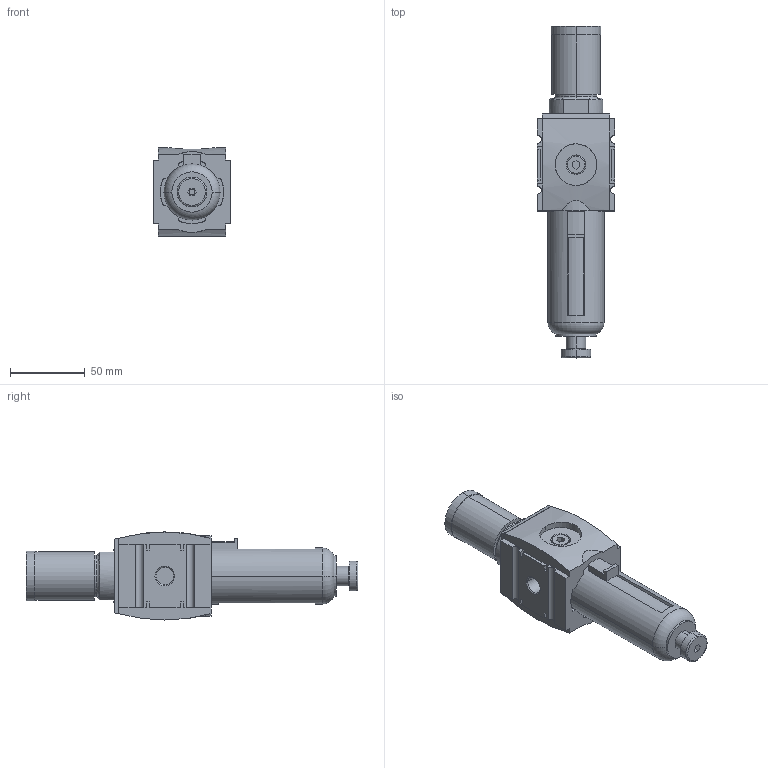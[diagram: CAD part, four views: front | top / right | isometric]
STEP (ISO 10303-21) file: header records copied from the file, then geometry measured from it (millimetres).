
FILE_DESCRIPTION((''),'2;1');
FILE_NAME('R412006236_ASM','2019-08-08T',('hug2hc'),(''),'CREO PARAMETRIC BY PTC INC, 2016260','CREO PARAMETRIC BY PTC INC, 2016260','');
FILE_SCHEMA(('CONFIG_CONTROL_DESIGN'));
Length unit declared in the file: millimetre
Products named in the file (5): R412006236; AS2_RES_FILTER_SEMI; AS2_PLUG_14; AS2_DRAIN_KNOB_PC; R412006236_ASM
Assembly tree (4 placements, depth 2):
  R412006236_ASM
    R412006236
    AS2_RES_FILTER_SEMI
    AS2_PLUG_14
    AS2_DRAIN_KNOB_PC
Bounding box: 52 x 222.5 x 59 mm (x, y, z)
Volume: 311580.7 mm3; surface area: 50838.7 mm2
Topology: 4 solids, 4 shells, 219 faces, 538 edges, 350 vertices
Faces by surface type: plane 140, cylinder 57, cone 16, torus 6
Entity records: 6924 total; most frequent: CARTESIAN_POINT 1324, DIRECTION 1150, ORIENTED_EDGE 1076, EDGE_CURVE 538, AXIS2_PLACEMENT_3D 392, VECTOR 366, LINE 366, VERTEX_POINT 350
